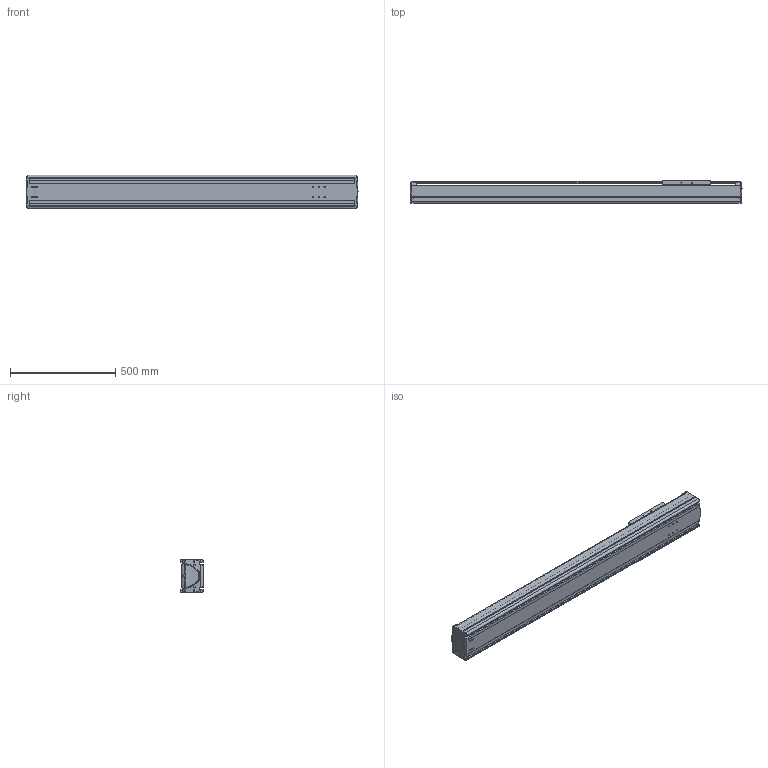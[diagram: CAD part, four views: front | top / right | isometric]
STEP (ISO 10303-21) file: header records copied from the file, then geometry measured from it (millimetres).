
FILE_DESCRIPTION((''),'2;1');
FILE_NAME('BE50G-ST-L_N-B5_IGS_PRT','2017-06-18T',(' '),(''),'PRO/ENGINEER BY PARAMETRIC TECHNOLOGY CORPORATION, 2015030','PRO/ENGINEER BY PARAMETRIC TECHNOLOGY CORPORATION, 2015030','');
FILE_SCHEMA(('CONFIG_CONTROL_DESIGN'));
Length unit declared in the file: millimetre
Products named in the file (1): BE50G-ST-L_N-B5_IGS_PRT
Bounding box: 1579.98 x 110 x 160 mm (x, y, z)
Volume: 7027127.3 mm3; surface area: 2399697.5 mm2
Topology: 2 solids, 99 shells, 1724 faces, 4608 edges, 2955 vertices
Faces by surface type: cylinder 772, plane 637, bspline 102, torus 87, cone 86, sphere 40
Entity records: 59551 total; most frequent: CARTESIAN_POINT 17118, ORIENTED_EDGE 8752, DIRECTION 8652, EDGE_CURVE 4570, AXIS2_PLACEMENT_3D 3244, VERTEX_POINT 2947, VECTOR 2164, LINE 2164
